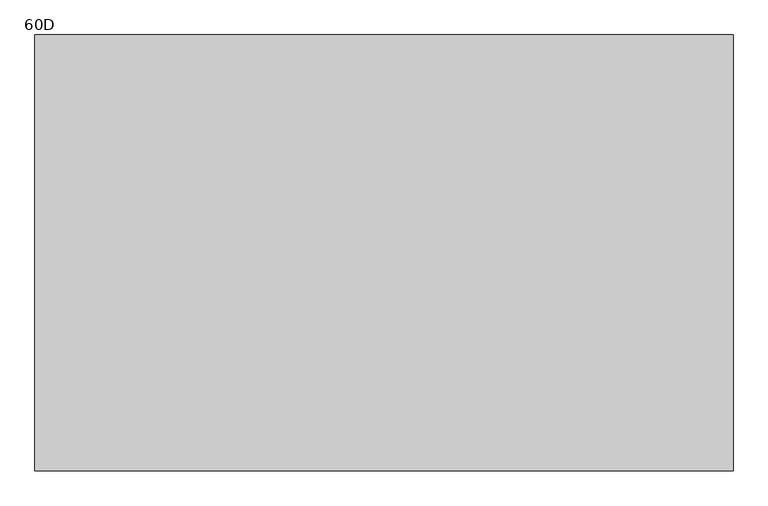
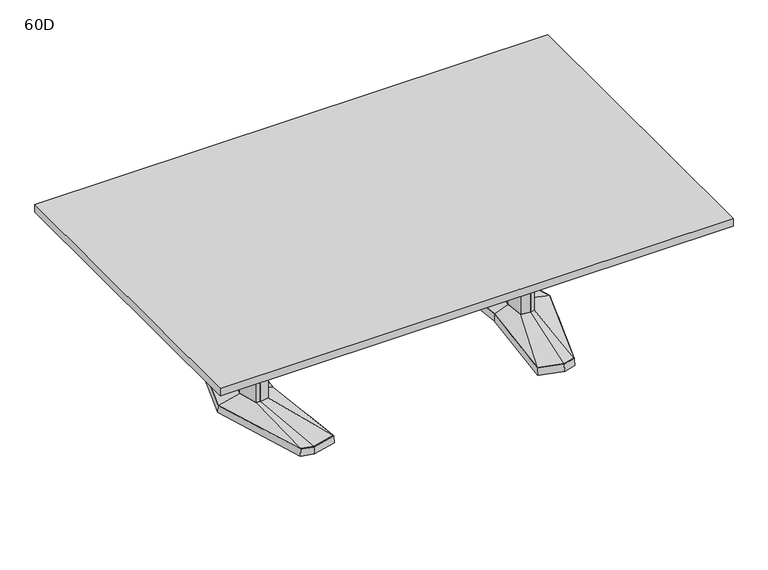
"""IFC4 building model written with IfcOpenShell, lengths in millimetres: furniture geometry, Coalesse_AM_Table_Conference_ETable2_Rectangular_96in_AluminiumBase : 60D."""

import ifcopenshell
import ifcopenshell.guid

model = None  # the IFC model being written
_history = None  # IfcOwnerHistory: only IFC2X3 demands one
_inside = {}  # id of a spatial element -> (the spatial element, [elements in it])
_under = {}  # id of a project, library or spatial element -> (it, [spatial elements below it])
_declared = {}  # id of a project -> (the project, [libraries it declares])
_typed = {}  # id of a type object -> (the type object, [elements of that type])
_made_of = {}  # id of a material, layer set ... -> (it, [elements and type objects made of it])


def new_model(schema):
    """Start an empty IFC model of exactly this schema.

    Asked for "IFC4X3", IfcOpenShell would pick the latest addendum, in which some entities
    have other attributes; the version numbers below select the first issue.
    IFC2X3 requires an IfcOwnerHistory on every rooted entity: one is made here for all.
    """
    global model, _history
    if schema == "IFC4X3":
        model = ifcopenshell.file(schema_version=(4, 3, 0, 0))
    else:
        model = ifcopenshell.file(schema=schema)
    _inside.clear()
    _under.clear()
    _declared.clear()
    _typed.clear()
    _made_of.clear()
    _history = None
    if model.schema == "IFC2X3":
        org = make("IfcOrganization", Name="unknown")
        user = make(
            "IfcPersonAndOrganization",
            ThePerson=make("IfcPerson", FamilyName="unknown"),
            TheOrganization=org,
        )
        app = make(
            "IfcApplication",
            ApplicationDeveloper=org,
            Version="unknown",
            ApplicationFullName="unknown",
            ApplicationIdentifier="unknown",
        )
        _history = make(
            "IfcOwnerHistory",
            OwningUser=user,
            OwningApplication=app,
            ChangeAction="ADDED",
            CreationDate=0,
        )
    return model


def make(cls, **values):
    """One entity of the class cls with the attributes given. An attribute that is None is left unset."""
    return model.create_entity(
        cls, **{name: value for name, value in values.items() if value is not None}
    )


def rooted(cls, **values):
    """An entity with a GlobalId (a new one), such as an element, a storey or a relation."""
    return make(cls, GlobalId=ifcopenshell.guid.new(), OwnerHistory=_history, **values)


def si_unit(unit_type, name, prefix=None):
    """IfcSIUnit, for example si_unit("LENGTHUNIT", "METRE", prefix="MILLI")."""
    return make("IfcSIUnit", UnitType=unit_type, Prefix=prefix, Name=name)


def assignment(units):
    """IfcUnitAssignment: the units of a project."""
    return None if units is None else make("IfcUnitAssignment", Units=units)


def point(xyz):
    """IfcCartesianPoint."""
    return None if xyz is None else make("IfcCartesianPoint", Coordinates=xyz)


def direction(xyz):
    """IfcDirection."""
    return None if xyz is None else make("IfcDirection", DirectionRatios=xyz)


def frame(location, z_axis=None, x_axis=None):
    """IfcAxis2Placement3D, a coordinate frame: its origin and axes. An axis left out is left unset."""
    return make(
        "IfcAxis2Placement3D",
        Location=point(location),
        Axis=direction(z_axis),
        RefDirection=direction(x_axis),
    )


def origin():
    """The frame at (0, 0, 0) with its axes left unset."""
    return frame((0.0, 0.0, 0.0))


def place(relative_to, where):
    """IfcLocalPlacement: puts the frame where relative to a parent placement (None: the world)."""
    return make(
        "IfcLocalPlacement", PlacementRelTo=relative_to, RelativePlacement=where
    )


def context(
    kind, dimensions, precision=None, world=None, true_north=None, identifier=None
):
    """IfcGeometricRepresentationContext, for example the 3D "Model" context."""
    return make(
        "IfcGeometricRepresentationContext",
        ContextIdentifier=identifier,
        ContextType=kind,
        CoordinateSpaceDimension=dimensions,
        Precision=precision,
        WorldCoordinateSystem=world,
        TrueNorth=true_north,
    )


def project(units=None, contexts=None):
    """IfcProject with its units and contexts."""
    return rooted(
        "IfcProject",
        Name="project",
        RepresentationContexts=contexts,
        UnitsInContext=assignment(units),
    )


def spatial(cls, under=None, at=None, **own):
    """A site, building, storey or space (cls), placed at a placement, below another one or the project."""
    s = rooted(cls, ObjectPlacement=at, **own)
    if under is not None:
        _under.setdefault(under.id(), (under, []))[1].append(s)
    return s


def polyline(points):
    """IfcPolyline through the points."""
    return make("IfcPolyline", Points=[point(p) for p in points])


def outline(outer, holes=None, kind="AREA"):
    """IfcArbitraryClosedProfileDef: a profile drawn as a closed curve; with holes, ...WithVoids."""
    if holes is None:
        return make("IfcArbitraryClosedProfileDef", ProfileType=kind, OuterCurve=outer)
    return make(
        "IfcArbitraryProfileDefWithVoids",
        ProfileType=kind,
        OuterCurve=outer,
        InnerCurves=holes,
    )


def extrude(swept, where, along, depth):
    """IfcExtrudedAreaSolid: the profile swept, set in the frame where, extruded along a direction by depth."""
    return make(
        "IfcExtrudedAreaSolid",
        SweptArea=swept,
        Position=where,
        ExtrudedDirection=direction(along),
        Depth=depth,
    )


def faces_of(points, faces, orient=None, outer=None):
    """IfcFace entities. A face is a list of loops; a loop is a list of indices into points, from 0.

    orient and outer hold one flag for each loop. By default every Orientation is true, the
    first loop of a face is its IfcFaceOuterBound and the others are IfcFaceBound.
    """
    made = []
    for i, loops in enumerate(faces):
        bounds = []
        for j, loop in enumerate(loops):
            is_outer = j == 0 if outer is None else outer[i][j]
            bounds.append(
                make(
                    "IfcFaceOuterBound" if is_outer else "IfcFaceBound",
                    Bound=make("IfcPolyLoop", Polygon=[points[k] for k in loop]),
                    Orientation=True if orient is None else orient[i][j],
                )
            )
        made.append(make("IfcFace", Bounds=bounds))
    return made


def faceted_brep(points, faces, orient=None, outer=None, voids=None):
    """IfcFacetedBrep: a solid bounded by flat faces; with voids (closed shells), ...WithVoids."""
    shared = [point(p) for p in points]
    hull = make("IfcClosedShell", CfsFaces=faces_of(shared, faces, orient, outer))
    if voids is None:
        return make("IfcFacetedBrep", Outer=hull)
    return make(
        "IfcFacetedBrepWithVoids",
        Outer=hull,
        Voids=[
            make(cls, CfsFaces=faces_of(shared, fs, o, b)) for cls, fs, o, b in voids
        ],
    )


def shape(context_of_items, identifier, shape_type, items):
    """IfcShapeRepresentation: the items that make up one representation, for example the "Body"."""
    return make(
        "IfcShapeRepresentation",
        ContextOfItems=context_of_items,
        RepresentationIdentifier=identifier,
        RepresentationType=shape_type,
        Items=items,
    )


def source(mapping_origin, context_of_items, identifier, shape_type, items):
    """IfcRepresentationMap: a shape defined once, which mapped items show again and again."""
    return make(
        "IfcRepresentationMap",
        MappingOrigin=mapping_origin,
        MappedRepresentation=shape(context_of_items, identifier, shape_type, items),
    )


def transform(
    local_origin,
    x_axis=None,
    y_axis=None,
    z_axis=None,
    scale=None,
    scale2=None,
    scale3=None,
    uniform=True,
):
    """IfcCartesianTransformationOperator3D, or its non-uniform kind. x_axis, y_axis, z_axis: its Axis1, 2, 3."""
    if uniform:
        return make(
            "IfcCartesianTransformationOperator3D",
            Axis1=direction(x_axis),
            Axis2=direction(y_axis),
            LocalOrigin=point(local_origin),
            Scale=scale,
            Axis3=direction(z_axis),
        )
    return make(
        "IfcCartesianTransformationOperator3DnonUniform",
        Axis1=direction(x_axis),
        Axis2=direction(y_axis),
        LocalOrigin=point(local_origin),
        Scale=scale,
        Axis3=direction(z_axis),
        Scale2=scale2,
        Scale3=scale3,
    )


def mapped(mapping_source, mapping_target):
    """IfcMappedItem: shows the shape of a source again, moved by a transform."""
    return make(
        "IfcMappedItem", MappingSource=mapping_source, MappingTarget=mapping_target
    )


def made_of(thing, what):
    """Note that an element or type object is made of a material, layer set ...; save() writes the relation."""
    if what is not None:
        _made_of.setdefault(what.id(), (what, []))[1].append(thing)
    return thing


def element(
    cls,
    number,
    at=None,
    inside=None,
    cuts=None,
    type_object=None,
    material=None,
    context=None,
    identifier="Body",
    shape_type=None,
    held_by="IfcProductDefinitionShape",
    body=None,
    shapes=None,
    **own,
):
    """One element of the class cls, such as IfcWall. Its Tag is "e" and its number.

    at: its placement. inside: the storey or other place that contains it. cuts: it is an
    opening in that element (IfcRelVoidsElement). A single representation is given by context,
    identifier, shape_type and body (its items); several are given by shapes. held_by: the class
    of the entity that holds the representations. save() writes the other relations.
    """
    e = rooted(cls, Tag="e%d" % number, ObjectPlacement=at, **own)
    if body is not None:
        shapes = [shape(context, identifier, shape_type, body)]
    if shapes is not None:
        e.Representation = make(held_by, Representations=shapes)
    if inside is not None:
        _inside.setdefault(inside.id(), (inside, []))[1].append(e)
    if cuts is not None:
        rooted(
            "IfcRelVoidsElement", RelatingBuildingElement=cuts, RelatedOpeningElement=e
        )
    if type_object is not None:
        _typed.setdefault(type_object.id(), (type_object, []))[1].append(e)
    return made_of(e, material)


def aggregate(whole, parts):
    """IfcRelAggregates: a whole, such as a stair, and the parts it consists of."""
    return rooted("IfcRelAggregates", RelatingObject=whole, RelatedObjects=parts)


def save(model, path):
    """Write the relations noted so far, then the file.

    IfcRelAggregates (storeys below a building ...), IfcRelContainedInSpatialStructure (elements
    in a storey), IfcRelDefinesByType, IfcRelAssociatesMaterial and IfcRelDeclares: one each for
    every whole, place, type object, material and project.
    """
    for whole, parts in _under.values():
        aggregate(whole, parts)
    for where, things in _inside.values():
        rooted(
            "IfcRelContainedInSpatialStructure",
            RelatedElements=things,
            RelatingStructure=where,
        )
    for kind, things in _typed.values():
        rooted("IfcRelDefinesByType", RelatedObjects=things, RelatingType=kind)
    for what, things in _made_of.values():
        rooted("IfcRelAssociatesMaterial", RelatedObjects=things, RelatingMaterial=what)
    for by, libraries in _declared.values():
        rooted("IfcRelDeclares", RelatingContext=by, RelatedDefinitions=libraries)
    model.write(path)


def plane_surface(at):
    """IfcPlane: the flat surface through the origin of the frame at, square to its z axis."""
    return make("IfcPlane", Position=at)


def spline_surface(u_degree, v_degree, points, u_multiplicities, v_multiplicities, u_knots, v_knots, weights=None):
    """IfcBSplineSurfaceWithKnots; with weights, IfcRationalBSplineSurfaceWithKnots. points: one row for each step in u."""
    own = dict(
        UDegree=u_degree,
        VDegree=v_degree,
        ControlPointsList=[[point(p) for p in row] for row in points],
        SurfaceForm="UNSPECIFIED",
        UClosed=False,
        VClosed=False,
        SelfIntersect=False,
        UMultiplicities=u_multiplicities,
        VMultiplicities=v_multiplicities,
        UKnots=u_knots,
        VKnots=v_knots,
        KnotSpec="UNSPECIFIED",
    )
    if weights is None:
        return make("IfcBSplineSurfaceWithKnots", **own)
    return make("IfcRationalBSplineSurfaceWithKnots", WeightsData=weights, **own)


def advanced_brep(points, edges, surfaces, faces):
    """IfcAdvancedBrep: a solid bounded by faces that lie on surfaces and meet in shared edges.

    An edge is (start, end): straight between two places in points (the first is 0);
    or (start, end, curve); or (start, end, curve, False) where it runs against its curve.
    A face is (place in surfaces, loops), or (place, loops, False) where it looks against
    its surface's normal. A loop lists edges by number (the first is 1), with a minus sign
    where the edge is run from its end to its start. The first loop is the outer one.
    """
    corners = [point(p) for p in points]
    vertices = [make("IfcVertexPoint", VertexGeometry=c) for c in corners]
    made = []
    for start, end, *more in edges:
        made.append(
            make(
                "IfcEdgeCurve",
                EdgeStart=vertices[start],
                EdgeEnd=vertices[end],
                EdgeGeometry=more[0] if more else make("IfcPolyline", Points=[corners[start], corners[end]]),
                SameSense=more[1] if len(more) > 1 else True,
            )
        )
    hull = []
    for where, loops, *sense in faces:
        bounds = []
        for j, loop in enumerate(loops):
            ring = [make("IfcOrientedEdge", EdgeElement=made[abs(k) - 1], Orientation=k > 0) for k in loop]
            bounds.append(
                make(
                    "IfcFaceOuterBound" if j == 0 else "IfcFaceBound",
                    Bound=make("IfcEdgeLoop", EdgeList=ring),
                    Orientation=True,
                )
            )
        hull.append(make("IfcAdvancedFace", Bounds=bounds, FaceSurface=surfaces[where], SameSense=sense[0] if sense else True))
    return make("IfcAdvancedBrep", Outer=make("IfcClosedShell", CfsFaces=hull))


def furniture_60d_fc41525b(model_context):
    return source(origin(), model_context, "Body", "SolidModel", [
        faceted_brep([(594.6806835, 455.5848221, 38.1), (485.1031277, 426.2263816, 38.1), (526.2663717, 0.0, 38.1), (485.1031277, -426.2263816, 38.1), (594.6806835, -455.5848221, 38.1), (650.8070396, -440.5478297, 38.1), (788.1184269, 0.0, 38.1), (650.8070396, 440.5478297, 38.1), (594.6806754, 457.2283104, 3.175), (652.0624472, 441.8549756, 3.175), (789.78125, 0.0, 3.175), (652.0624472, -441.8549756, 3.175), (594.6806754, -457.2283104, 3.175), (483.39375, -427.4118891, 3.175), (524.6714856, 0.0, 3.175), (483.39375, 427.4118891, 3.175), (598.270115, 428.3273875, 3.175), (493.2218228, 402.1057253, 3.175), (501.340518, 377.985069, 3.175), (601.8595466, 401.0699529, 3.175), (652.4191725, 387.524361, 3.175), (651.6131061, 414.0360954, 3.175), (598.270115, -428.3273875, 3.175), (651.6131061, -414.0360954, 3.175), (652.4191725, -387.524361, 3.175), (601.8595466, -401.0699529, 3.175), (501.340518, -377.985069, 3.175), (493.2218228, -402.1057253, 3.175), (724.8653621, 0.0, 3.175), (692.5959611, 120.4193755, 3.175), (643.9487222, 133.471665, 3.175), (564.0680526, 119.4176561, 3.175), (552.9368466, 0.0, 3.175), (564.0680526, -119.4176561, 3.175), (643.9487222, -133.471665, 3.175), (692.5959611, -120.4193755, 3.175), (598.270115, 428.3273875, 0.0), (651.6131061, 414.0360954, 0.0), (652.4191725, 387.524361, 0.0), (601.8595466, 401.0699529, 0.0), (501.340518, 377.985069, 0.0), (493.2218228, 402.1057253, 0.0), (598.270115, -428.3273875, 0.0), (493.2218228, -402.1057253, 0.0), (501.340518, -377.985069, 0.0), (601.8595466, -401.0699529, 0.0), (652.4191725, -387.524361, 0.0), (651.6131061, -414.0360954, 0.0), (724.8653621, 0.0, 0.0), (692.5959611, -120.4193755, 0.0), (643.9487222, -133.471665, 0.0), (564.0680526, -119.4176561, 0.0), (552.9368466, 0.0, 0.0), (564.0680526, 119.4176561, 0.0), (643.9487222, 133.471665, 0.0), (692.5959611, 120.4193755, 0.0)], [[[0, 1, 2, 3, 4, 5, 6, 7]], [[8, 9, 10, 11, 12, 13, 14, 15], [16, 17, 18, 19, 20, 21], [22, 23, 24, 25, 26, 27], [28, 29, 30, 31, 32, 33, 34, 35]], [[7, 9, 8, 0]], [[6, 10, 9, 7]], [[5, 11, 10, 6]], [[4, 12, 11, 5]], [[3, 13, 12, 4]], [[2, 14, 13, 3]], [[1, 15, 14, 2]], [[0, 8, 15, 1]], [[36, 37, 38, 39, 40, 41]], [[42, 43, 44, 45, 46, 47]], [[48, 49, 50, 51, 52, 53, 54, 55]], [[36, 16, 21, 37]], [[37, 21, 20, 38]], [[38, 20, 19, 39]], [[39, 19, 18, 40]], [[40, 18, 17, 41]], [[41, 17, 16, 36]], [[42, 22, 27, 43]], [[43, 27, 26, 44]], [[44, 26, 25, 45]], [[45, 25, 24, 46]], [[46, 24, 23, 47]], [[47, 23, 22, 42]], [[48, 28, 35, 49]], [[49, 35, 34, 50]], [[50, 34, 33, 51]], [[51, 33, 32, 52]], [[52, 32, 31, 53]], [[53, 31, 30, 54]], [[54, 30, 29, 55]], [[55, 29, 28, 48]]]),
        faceted_brep([(685.4210836, 0.0, 698.5), (661.4858546, 89.3188359, 698.5), (644.6324984, 93.8406728, 698.5), (642.2326511, 94.4845635, 698.5), (599.305146, 86.9320037, 698.5), (591.2020056, 0.0, 698.5), (599.305146, -86.9320037, 698.5), (642.2326511, -94.4845635, 698.5), (644.6324984, -93.8406728, 698.5), (661.4858546, -89.3188359, 698.5), (685.4210836, 0.0, 63.5), (661.4858546, -89.3188359, 63.5), (644.6324984, -93.8406728, 63.5), (642.2326511, -94.4845635, 63.5), (599.305146, -86.9320037, 63.5), (591.2020056, 0.0, 63.5), (599.305146, 86.9320037, 63.5), (642.2326511, 94.4845635, 63.5), (644.6324984, 93.8406728, 63.5), (661.4858546, 89.3188359, 63.5)], [[[0, 1, 2, 3, 4, 5, 6, 7, 8, 9]], [[10, 11, 12, 13, 14, 15, 16, 17, 18, 19]], [[9, 11, 10, 0]], [[8, 12, 11, 9]], [[7, 13, 12, 8]], [[6, 14, 13, 7]], [[5, 15, 14, 6]], [[4, 16, 15, 5]], [[3, 17, 16, 4]], [[2, 18, 17, 3]], [[1, 19, 18, 2]], [[0, 10, 19, 1]]]),
        advanced_brep(
        [(642.2326511, 94.4845635, 63.5), (599.305146, 86.9320037, 63.5), (591.2020056, 0.0, 63.5), (599.305146, -86.9320037, 63.5), (642.2326511, -94.4845635, 63.5), (661.4858546, -89.3188359, 63.5), (685.4210836, 0.0, 63.5), (661.4858546, 89.3188359, 63.5), (594.6806835, 455.5848221, 38.1), (650.8070396, 440.5478297, 38.1), (788.1184269, 0.0, 38.1), (650.8070396, -440.5478297, 38.1), (594.6806835, -455.5848221, 38.1), (485.1031277, -426.2263816, 38.1), (526.2663717, 0.0, 38.1), (485.1031277, 426.2263816, 38.1)],
        [
            (0, 1),
            (1, 2),
            (2, 3),
            (3, 4),
            (4, 5),
            (5, 6),
            (6, 7),
            (7, 0),
            (8, 9),
            (9, 10),
            (10, 11),
            (11, 12),
            (12, 13),
            (13, 14),
            (14, 15),
            (15, 8),
            (8, 0),
            (7, 9),
            (6, 10),
            (5, 11),
            (4, 12),
            (3, 13),
            (2, 14),
            (1, 15),
        ],
        [
            plane_surface(frame((635.3337991, 0.0, 63.5), z_axis=(0.0, 0.0, 1.0), x_axis=(-0.25884244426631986, -0.9659195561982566, 0.0))),
            plane_surface(frame((596.9458125, 0.0, 38.1), z_axis=(0.0, 0.0, -1.0), x_axis=(-0.25884244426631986, -0.9659195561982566, 0.0))),
            spline_surface(1, 1, [[(594.6806835, 455.5848221, 38.1), (650.8070396, 440.5478297, 38.1)], [(642.2326511, 94.4845635, 63.5), (661.4858546, 89.3188359, 63.5)]], [2, 2], [2, 2], [0.0, 1.0], [0.0, 1.0]),
            spline_surface(1, 1, [[(650.8070396, 440.5478297, 38.1), (788.1184269, 0.0, 38.1)], [(661.4858546, 89.3188359, 63.5), (685.4210836, 0.0, 63.5)]], [2, 2], [2, 2], [0.0, 1.0], [0.0, 1.0]),
            spline_surface(1, 1, [[(788.1184269, 0.0, 38.1), (650.8070396, -440.5478297, 38.1)], [(685.4210836, 0.0, 63.5), (661.4858546, -89.3188359, 63.5)]], [2, 2], [2, 2], [0.0, 1.0], [0.0, 1.0]),
            spline_surface(1, 1, [[(650.8070396, -440.5478297, 38.1), (594.6806835, -455.5848221, 38.1)], [(661.4858546, -89.3188359, 63.5), (642.2326511, -94.4845635, 63.5)]], [2, 2], [2, 2], [0.0, 1.0], [0.0, 1.0]),
            spline_surface(1, 1, [[(594.6806835, -455.5848221, 38.1), (485.1031277, -426.2263816, 38.1)], [(642.2326511, -94.4845635, 63.5), (599.305146, -86.9320037, 63.5)]], [2, 2], [2, 2], [0.0, 1.0], [0.0, 1.0]),
            spline_surface(1, 1, [[(485.1031277, -426.2263816, 38.1), (526.2663717, 0.0, 38.1)], [(599.305146, -86.9320037, 63.5), (591.2020056, 0.0, 63.5)]], [2, 2], [2, 2], [0.0, 1.0], [0.0, 1.0]),
            spline_surface(1, 1, [[(526.2663717, 0.0, 38.1), (485.1031277, 426.2263816, 38.1)], [(591.2020056, 0.0, 63.5), (599.305146, 86.9320037, 63.5)]], [2, 2], [2, 2], [0.0, 1.0], [0.0, 1.0]),
            spline_surface(1, 1, [[(485.1031277, 426.2263816, 38.1), (594.6806835, 455.5848221, 38.1)], [(599.305146, 86.9320037, 63.5), (642.2326511, 94.4845635, 63.5)]], [2, 2], [2, 2], [0.0, 1.0], [0.0, 1.0]),
        ],
        [
            (0, [[1, 2, 3, 4, 5, 6, 7, 8]]),
            (1, [[9, 10, 11, 12, 13, 14, 15, 16]]),
            (2, [[17, -8, 18, -9]]),
            (3, [[-18, -7, 19, -10]]),
            (4, [[-19, -6, 20, -11]]),
            (5, [[-20, -5, 21, -12]]),
            (6, [[-21, -4, 22, -13]]),
            (7, [[-22, -3, 23, -14]]),
            (8, [[-23, -2, 24, -15]]),
            (9, [[-24, -1, -17, -16]]),
        ],
    ),
        faceted_brep([(-594.6806835, 455.5848221, 38.1), (-650.8070396, 440.5478297, 38.1), (-788.1184269, 0.0, 38.1), (-650.8070396, -440.5478297, 38.1), (-594.6806835, -455.5848221, 38.1), (-485.1031277, -426.2263816, 38.1), (-526.2663717, 0.0, 38.1), (-485.1031277, 426.2263816, 38.1), (-594.6806754, 457.2283104, 3.175), (-483.39375, 427.4118891, 3.175), (-524.6714856, 0.0, 3.175), (-483.39375, -427.4118891, 3.175), (-594.6806754, -457.2283104, 3.175), (-652.0624472, -441.8549756, 3.175), (-789.78125, 0.0, 3.175), (-652.0624472, 441.8549756, 3.175), (-598.270115, 428.3273875, 3.175), (-651.6131061, 414.0360954, 3.175), (-652.4191725, 387.524361, 3.175), (-601.8595466, 401.0699529, 3.175), (-501.340518, 377.985069, 3.175), (-493.2218228, 402.1057253, 3.175), (-598.270115, -428.3273875, 3.175), (-493.2218228, -402.1057253, 3.175), (-501.340518, -377.985069, 3.175), (-601.8595466, -401.0699529, 3.175), (-652.4191725, -387.524361, 3.175), (-651.6131061, -414.0360954, 3.175), (-724.8653621, 0.0, 3.175), (-692.5959611, -120.4193755, 3.175), (-643.9487222, -133.471665, 3.175), (-564.0680526, -119.4176561, 3.175), (-552.9368466, 0.0, 3.175), (-564.0680526, 119.4176561, 3.175), (-643.9487222, 133.471665, 3.175), (-692.5959611, 120.4193755, 3.175), (-598.270115, 428.3273875, 0.0), (-493.2218228, 402.1057253, 0.0), (-501.340518, 377.985069, 0.0), (-601.8595466, 401.0699529, 0.0), (-652.4191725, 387.524361, 0.0), (-651.6131061, 414.0360954, 0.0), (-598.270115, -428.3273875, 0.0), (-651.6131061, -414.0360954, 0.0), (-652.4191725, -387.524361, 0.0), (-601.8595466, -401.0699529, 0.0), (-501.340518, -377.985069, 0.0), (-493.2218228, -402.1057253, 0.0), (-724.8653621, 0.0, 0.0), (-692.5959611, 120.4193755, 0.0), (-643.9487222, 133.471665, 0.0), (-564.0680526, 119.4176561, 0.0), (-552.9368466, 0.0, 0.0), (-564.0680526, -119.4176561, 0.0), (-643.9487222, -133.471665, 0.0), (-692.5959611, -120.4193755, 0.0)], [[[0, 1, 2, 3, 4, 5, 6, 7]], [[8, 9, 10, 11, 12, 13, 14, 15], [16, 17, 18, 19, 20, 21], [22, 23, 24, 25, 26, 27], [28, 29, 30, 31, 32, 33, 34, 35]], [[1, 0, 8, 15]], [[2, 1, 15, 14]], [[3, 2, 14, 13]], [[4, 3, 13, 12]], [[5, 4, 12, 11]], [[6, 5, 11, 10]], [[7, 6, 10, 9]], [[0, 7, 9, 8]], [[36, 37, 38, 39, 40, 41]], [[42, 43, 44, 45, 46, 47]], [[48, 49, 50, 51, 52, 53, 54, 55]], [[36, 41, 17, 16]], [[41, 40, 18, 17]], [[40, 39, 19, 18]], [[39, 38, 20, 19]], [[38, 37, 21, 20]], [[37, 36, 16, 21]], [[42, 47, 23, 22]], [[47, 46, 24, 23]], [[46, 45, 25, 24]], [[45, 44, 26, 25]], [[44, 43, 27, 26]], [[43, 42, 22, 27]], [[48, 55, 29, 28]], [[55, 54, 30, 29]], [[54, 53, 31, 30]], [[53, 52, 32, 31]], [[52, 51, 33, 32]], [[51, 50, 34, 33]], [[50, 49, 35, 34]], [[49, 48, 28, 35]]]),
        faceted_brep([(-685.4210836, 0.0, 698.5), (-661.4858546, -89.3188359, 698.5), (-644.6324984, -93.8406728, 698.5), (-642.2326511, -94.4845635, 698.5), (-599.305146, -86.9320037, 698.5), (-591.2020056, 0.0, 698.5), (-599.305146, 86.9320037, 698.5), (-642.2326511, 94.4845635, 698.5), (-644.6324984, 93.8406728, 698.5), (-661.4858546, 89.3188359, 698.5), (-685.4210836, 0.0, 63.5), (-661.4858546, 89.3188359, 63.5), (-644.6324984, 93.8406728, 63.5), (-642.2326511, 94.4845635, 63.5), (-599.305146, 86.9320037, 63.5), (-591.2020056, 0.0, 63.5), (-599.305146, -86.9320037, 63.5), (-642.2326511, -94.4845635, 63.5), (-644.6324984, -93.8406728, 63.5), (-661.4858546, -89.3188359, 63.5)], [[[0, 1, 2, 3, 4, 5, 6, 7, 8, 9]], [[10, 11, 12, 13, 14, 15, 16, 17, 18, 19]], [[1, 0, 10, 19]], [[2, 1, 19, 18]], [[3, 2, 18, 17]], [[4, 3, 17, 16]], [[5, 4, 16, 15]], [[6, 5, 15, 14]], [[7, 6, 14, 13]], [[8, 7, 13, 12]], [[9, 8, 12, 11]], [[0, 9, 11, 10]]]),
        advanced_brep(
        [(-642.2326511, 94.4845635, 63.5), (-661.4858546, 89.3188359, 63.5), (-685.4210836, 0.0, 63.5), (-661.4858546, -89.3188359, 63.5), (-642.2326511, -94.4845635, 63.5), (-599.305146, -86.9320037, 63.5), (-591.2020056, 0.0, 63.5), (-599.305146, 86.9320037, 63.5), (-594.6806835, 455.5848221, 38.1), (-485.1031277, 426.2263816, 38.1), (-526.2663717, 0.0, 38.1), (-485.1031277, -426.2263816, 38.1), (-594.6806835, -455.5848221, 38.1), (-650.8070396, -440.5478297, 38.1), (-788.1184269, 0.0, 38.1), (-650.8070396, 440.5478297, 38.1)],
        [
            (0, 1),
            (1, 2),
            (2, 3),
            (3, 4),
            (4, 5),
            (5, 6),
            (6, 7),
            (7, 0),
            (8, 9),
            (9, 10),
            (10, 11),
            (11, 12),
            (12, 13),
            (13, 14),
            (14, 15),
            (15, 8),
            (15, 1),
            (0, 8),
            (14, 2),
            (13, 3),
            (12, 4),
            (11, 5),
            (10, 6),
            (9, 7),
        ],
        [
            plane_surface(frame((-635.3337991, 0.0, 63.5), z_axis=(0.0, 0.0, 1.0), x_axis=(0.25884244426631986, -0.9659195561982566, 0.0))),
            plane_surface(frame((-596.9458125, 0.0, 38.1), z_axis=(0.0, 0.0, -1.0), x_axis=(0.25884244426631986, -0.9659195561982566, 0.0))),
            spline_surface(1, 1, [[(-594.6806835, 455.5848221, 38.1), (-642.2326511, 94.4845635, 63.5)], [(-650.8070396, 440.5478297, 38.1), (-661.4858546, 89.3188359, 63.5)]], [2, 2], [2, 2], [0.0, 1.0], [0.0, 1.0]),
            spline_surface(1, 1, [[(-650.8070396, 440.5478297, 38.1), (-661.4858546, 89.3188359, 63.5)], [(-788.1184269, 0.0, 38.1), (-685.4210836, 0.0, 63.5)]], [2, 2], [2, 2], [0.0, 1.0], [0.0, 1.0]),
            spline_surface(1, 1, [[(-788.1184269, 0.0, 38.1), (-685.4210836, 0.0, 63.5)], [(-650.8070396, -440.5478297, 38.1), (-661.4858546, -89.3188359, 63.5)]], [2, 2], [2, 2], [0.0, 1.0], [0.0, 1.0]),
            spline_surface(1, 1, [[(-650.8070396, -440.5478297, 38.1), (-661.4858546, -89.3188359, 63.5)], [(-594.6806835, -455.5848221, 38.1), (-642.2326511, -94.4845635, 63.5)]], [2, 2], [2, 2], [0.0, 1.0], [0.0, 1.0]),
            spline_surface(1, 1, [[(-594.6806835, -455.5848221, 38.1), (-642.2326511, -94.4845635, 63.5)], [(-485.1031277, -426.2263816, 38.1), (-599.305146, -86.9320037, 63.5)]], [2, 2], [2, 2], [0.0, 1.0], [0.0, 1.0]),
            spline_surface(1, 1, [[(-485.1031277, -426.2263816, 38.1), (-599.305146, -86.9320037, 63.5)], [(-526.2663717, 0.0, 38.1), (-591.2020056, 0.0, 63.5)]], [2, 2], [2, 2], [0.0, 1.0], [0.0, 1.0]),
            spline_surface(1, 1, [[(-526.2663717, 0.0, 38.1), (-591.2020056, 0.0, 63.5)], [(-485.1031277, 426.2263816, 38.1), (-599.305146, 86.9320037, 63.5)]], [2, 2], [2, 2], [0.0, 1.0], [0.0, 1.0]),
            spline_surface(1, 1, [[(-485.1031277, 426.2263816, 38.1), (-599.305146, 86.9320037, 63.5)], [(-594.6806835, 455.5848221, 38.1), (-642.2326511, 94.4845635, 63.5)]], [2, 2], [2, 2], [0.0, 1.0], [0.0, 1.0]),
        ],
        [
            (0, [[1, 2, 3, 4, 5, 6, 7, 8]]),
            (1, [[9, 10, 11, 12, 13, 14, 15, 16]]),
            (2, [[-16, 17, -1, 18]]),
            (3, [[-15, 19, -2, -17]]),
            (4, [[-14, 20, -3, -19]]),
            (5, [[-13, 21, -4, -20]]),
            (6, [[-12, 22, -5, -21]]),
            (7, [[-11, 23, -6, -22]]),
            (8, [[-10, 24, -7, -23]]),
            (9, [[-9, -18, -8, -24]]),
        ],
    ),
        extrude(outline(polyline([(96.8375, 698.5), (103.1875, 698.5), (103.1875, 476.25), (-103.1875, 476.25), (-103.1875, 698.5), (-96.8375, 698.5), (-96.8375, 482.6), (96.8375, 482.6), (96.8375, 698.5)])), frame((-597.9364207, 0.0, 0.0), z_axis=(1.0, 0.0, 0.0), x_axis=(0.0, 1.0, 0.0)), (0.0, 0.0, 1.0), 1195.8728415),
        extrude(outline(polyline([(-1219.2, -762.0), (-1219.2, 762.0), (1219.2, 762.0), (1219.2, -762.0), (-1219.2, -762.0)])), frame((0.0, 0.0, 698.5), z_axis=(0.0, 0.0, 1.0), x_axis=(1.0, 0.0, 0.0)), (0.0, 0.0, 1.0), 38.1),
    ])


if __name__ == "__main__":
    model = new_model("IFC4")
    model_context = context("Model", 3, world=origin())
    ifc_project = project(units=[si_unit("LENGTHUNIT", "METRE", prefix="MILLI")], contexts=[model_context])
    site = spatial("IfcSite", under=ifc_project)
    building = spatial("IfcBuilding", under=site)
    placement = place(None, origin())
    furniture_60d_shape = furniture_60d_fc41525b(model_context)
    element("IfcFurniture", 1, ObjectType="Coalesse_AM_Table_Conference_ETable2_Rectangular_96in_AluminiumBase : 60D", at=placement, inside=building, context=model_context, shape_type="MappedRepresentation", body=[
        mapped(furniture_60d_shape, transform((0.0, 0.0, 0.0), x_axis=(1.0, 0.0, 0.0), y_axis=(0.0, 1.0, 0.0), z_axis=(0.0, 0.0, 1.0))),
    ])
    save(model, "model.ifc")
